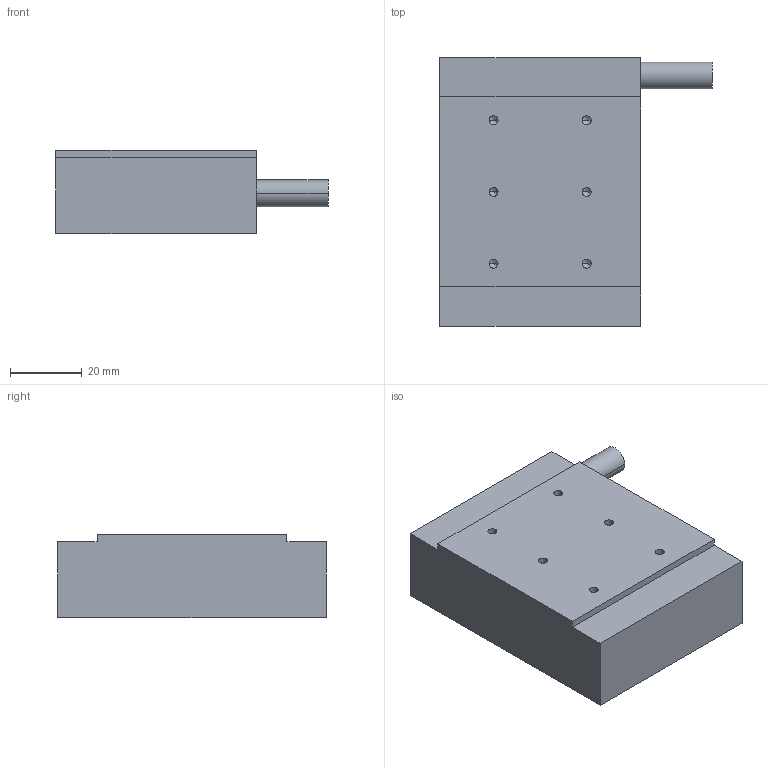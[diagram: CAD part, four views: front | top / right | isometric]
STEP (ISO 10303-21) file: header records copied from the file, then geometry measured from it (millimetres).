
FILE_DESCRIPTION (( 'STEP AP214' ), '1' );
FILE_NAME ('1-CJM050A-01.STEP', '2025-09-05T09:22:13', ( '' ), ( '' ), 'SwSTEP 2.0', 'SolidWorks 2016', '' );
FILE_SCHEMA (( 'AUTOMOTIVE_DESIGN' ));
Length unit declared in the file: millimetre
Products named in the file (1): 1-CJM050A-01
Bounding box: 76 x 75 x 23.2 mm (x, y, z)
Volume: 95573.1 mm3; surface area: 15336.4 mm2
Topology: 1 solids, 1 shells, 61 faces, 146 edges, 78 vertices
Faces by surface type: cone 28, cylinder 22, plane 11
Entity records: 1818 total; most frequent: DIRECTION 302, CARTESIAN_POINT 266, ORIENTED_EDGE 252, EDGE_CURVE 126, AXIS2_PLACEMENT_3D 114, VERTEX_POINT 78, LINE 74, VECTOR 74
